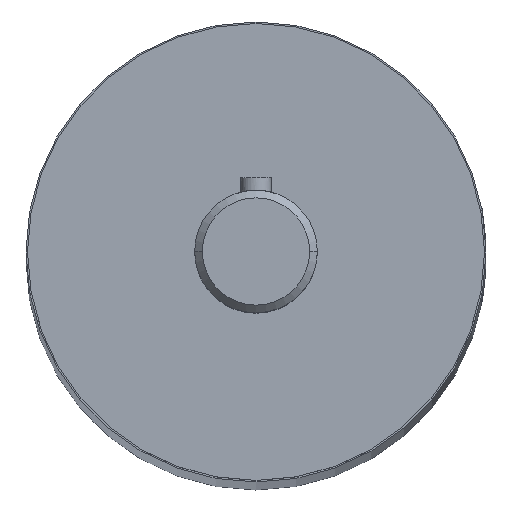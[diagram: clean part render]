
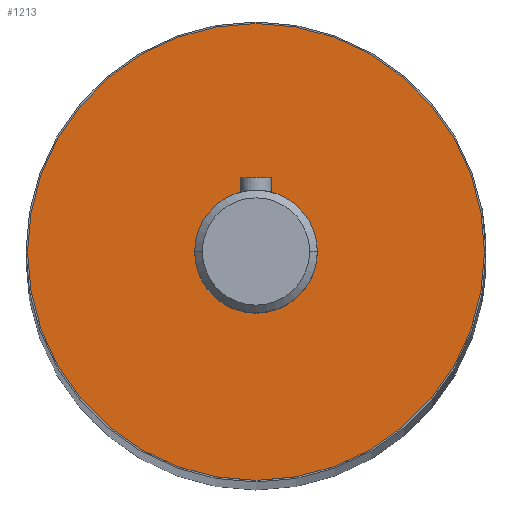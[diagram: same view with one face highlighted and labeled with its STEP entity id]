
A CAD part, top view. The second image highlights one B-rep face of the part: STEP entity #1213.
In plain terms, the highlighted planar face has unit normal (0, 0, 1).
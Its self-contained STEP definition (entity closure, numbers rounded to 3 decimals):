
#55 = DIRECTION ( 'NONE',  ( 0., 0., 1. ) ) ;
#70 = CARTESIAN_POINT ( 'NONE',  ( 14.9, 0., 152.5 ) ) ;
#117 = PLANE ( 'NONE',  #1012 ) ;
#156 = CARTESIAN_POINT ( 'NONE',  ( -14.9, 0., 152.5 ) ) ;
#162 = DIRECTION ( 'NONE',  ( 0., 0., 1. ) ) ;
#254 = ORIENTED_EDGE ( 'NONE', *, *, #387, .F. ) ;
#331 = CARTESIAN_POINT ( 'NONE',  ( -4., 0., 152.5 ) ) ;
#352 = CIRCLE ( 'NONE', #654, 14.9 ) ;
#380 = VERTEX_POINT ( 'NONE', #331 ) ;
#387 = EDGE_CURVE ( 'NONE', #380, #1514, #1829, .T. ) ;
#509 = EDGE_LOOP ( 'NONE', ( #254, #930 ) ) ;
#522 = CIRCLE ( 'NONE', #674, 14.9 ) ;
#554 = VERTEX_POINT ( 'NONE', #70 ) ;
#620 = AXIS2_PLACEMENT_3D ( 'NONE', #1952, #1085, #1437 ) ;
#654 = AXIS2_PLACEMENT_3D ( 'NONE', #864, #1543, #2236 ) ;
#656 = EDGE_CURVE ( 'NONE', #1152, #554, #522, .T. ) ;
#674 = AXIS2_PLACEMENT_3D ( 'NONE', #2220, #1001, #1025 ) ;
#744 = ORIENTED_EDGE ( 'NONE', *, *, #1784, .T. ) ;
#864 = CARTESIAN_POINT ( 'NONE',  ( 0., 0., 152.5 ) ) ;
#930 = ORIENTED_EDGE ( 'NONE', *, *, #1637, .F. ) ;
#961 = ORIENTED_EDGE ( 'NONE', *, *, #656, .T. ) ;
#1001 = DIRECTION ( 'NONE',  ( 0., 0., 1. ) ) ;
#1012 = AXIS2_PLACEMENT_3D ( 'NONE', #2039, #162, #1026 ) ;
#1022 = FACE_BOUND ( 'NONE', #509, .T. ) ;
#1025 = DIRECTION ( 'NONE',  ( 1., 0., 0. ) ) ;
#1026 = DIRECTION ( 'NONE',  ( 1., 0., 0. ) ) ;
#1085 = DIRECTION ( 'NONE',  ( 0., 0., 1. ) ) ;
#1086 = CARTESIAN_POINT ( 'NONE',  ( 0., 0., 152.5 ) ) ;
#1152 = VERTEX_POINT ( 'NONE', #156 ) ;
#1204 = AXIS2_PLACEMENT_3D ( 'NONE', #1086, #55, #1390 ) ;
#1213 = ADVANCED_FACE ( 'NONE', ( #1022, #1352 ), #117, .T. ) ;
#1352 = FACE_OUTER_BOUND ( 'NONE', #1940, .T. ) ;
#1390 = DIRECTION ( 'NONE',  ( 1., 0., 0. ) ) ;
#1437 = DIRECTION ( 'NONE',  ( 1., 0., 0. ) ) ;
#1514 = VERTEX_POINT ( 'NONE', #1546 ) ;
#1543 = DIRECTION ( 'NONE',  ( 0., 0., 1. ) ) ;
#1546 = CARTESIAN_POINT ( 'NONE',  ( 4., 0., 152.5 ) ) ;
#1607 = CIRCLE ( 'NONE', #620, 4. ) ;
#1637 = EDGE_CURVE ( 'NONE', #1514, #380, #1607, .T. ) ;
#1784 = EDGE_CURVE ( 'NONE', #554, #1152, #352, .T. ) ;
#1829 = CIRCLE ( 'NONE', #1204, 4. ) ;
#1940 = EDGE_LOOP ( 'NONE', ( #961, #744 ) ) ;
#1952 = CARTESIAN_POINT ( 'NONE',  ( 0., 0., 152.5 ) ) ;
#2039 = CARTESIAN_POINT ( 'NONE',  ( 0., 0., 152.5 ) ) ;
#2220 = CARTESIAN_POINT ( 'NONE',  ( 0., 0., 152.5 ) ) ;
#2236 = DIRECTION ( 'NONE',  ( 1., 0., 0. ) ) ;
